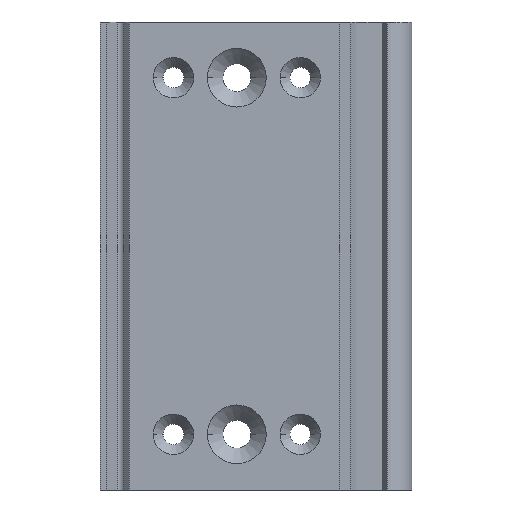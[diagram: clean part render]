
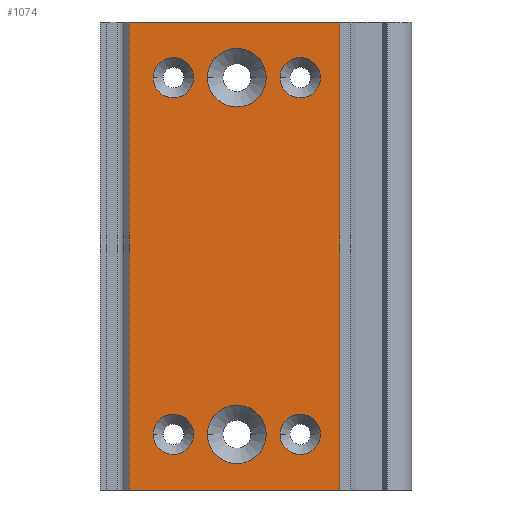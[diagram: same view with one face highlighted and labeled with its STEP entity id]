
A CAD part, left-side view. The second image highlights one B-rep face of the part: STEP entity #1074.
In plain terms, the highlighted planar face has unit normal (-1, 0, 0).
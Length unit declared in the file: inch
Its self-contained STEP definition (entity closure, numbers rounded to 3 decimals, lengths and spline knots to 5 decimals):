
#79=DIRECTION('',(0.,1.,0.));
#80=VECTOR('',#79,1.329);
#81=CARTESIAN_POINT('',(-0.1378,0.455,-1.47638));
#82=LINE('',#81,#80);
#185=DIRECTION('',(0.,0.,1.));
#186=VECTOR('',#185,2.95276);
#187=CARTESIAN_POINT('',(-0.1378,1.784,-1.47638));
#188=LINE('',#187,#186);
#189=DIRECTION('',(0.,0.,1.));
#190=VECTOR('',#189,2.95276);
#191=CARTESIAN_POINT('',(-0.1378,0.455,-1.47638));
#192=LINE('',#191,#190);
#193=CARTESIAN_POINT('',(-0.1378,0.705,1.125));
#194=DIRECTION('',(-1.,0.,0.));
#195=DIRECTION('',(0.,1.,0.));
#196=AXIS2_PLACEMENT_3D('',#193,#194,#195);
#198=CARTESIAN_POINT('',(-0.1378,0.705,1.125));
#199=DIRECTION('',(-1.,0.,0.));
#200=DIRECTION('',(0.,-1.,0.));
#201=AXIS2_PLACEMENT_3D('',#198,#199,#200);
#203=CARTESIAN_POINT('',(-0.1378,0.705,-1.125));
#204=DIRECTION('',(-1.,0.,0.));
#205=DIRECTION('',(0.,1.,0.));
#206=AXIS2_PLACEMENT_3D('',#203,#204,#205);
#208=CARTESIAN_POINT('',(-0.1378,0.705,-1.125));
#209=DIRECTION('',(-1.,0.,0.));
#210=DIRECTION('',(0.,-1.,0.));
#211=AXIS2_PLACEMENT_3D('',#208,#209,#210);
#213=CARTESIAN_POINT('',(-0.1378,1.505,1.125));
#214=DIRECTION('',(-1.,0.,0.));
#215=DIRECTION('',(0.,1.,0.));
#216=AXIS2_PLACEMENT_3D('',#213,#214,#215);
#218=CARTESIAN_POINT('',(-0.1378,1.505,1.125));
#219=DIRECTION('',(-1.,0.,0.));
#220=DIRECTION('',(0.,-1.,0.));
#221=AXIS2_PLACEMENT_3D('',#218,#219,#220);
#223=CARTESIAN_POINT('',(-0.1378,1.505,-1.125));
#224=DIRECTION('',(-1.,0.,0.));
#225=DIRECTION('',(0.,1.,0.));
#226=AXIS2_PLACEMENT_3D('',#223,#224,#225);
#228=CARTESIAN_POINT('',(-0.1378,1.505,-1.125));
#229=DIRECTION('',(-1.,0.,0.));
#230=DIRECTION('',(0.,-1.,0.));
#231=AXIS2_PLACEMENT_3D('',#228,#229,#230);
#233=CARTESIAN_POINT('',(-0.1378,1.105,1.125));
#234=DIRECTION('',(-1.,0.,0.));
#235=DIRECTION('',(0.,1.,0.));
#236=AXIS2_PLACEMENT_3D('',#233,#234,#235);
#238=CARTESIAN_POINT('',(-0.1378,1.105,1.125));
#239=DIRECTION('',(-1.,0.,0.));
#240=DIRECTION('',(0.,-1.,0.));
#241=AXIS2_PLACEMENT_3D('',#238,#239,#240);
#243=CARTESIAN_POINT('',(-0.1378,1.105,-1.125));
#244=DIRECTION('',(-1.,0.,0.));
#245=DIRECTION('',(0.,1.,0.));
#246=AXIS2_PLACEMENT_3D('',#243,#244,#245);
#248=CARTESIAN_POINT('',(-0.1378,1.105,-1.125));
#249=DIRECTION('',(-1.,0.,0.));
#250=DIRECTION('',(0.,-1.,0.));
#251=AXIS2_PLACEMENT_3D('',#248,#249,#250);
#395=DIRECTION('',(0.,1.,0.));
#396=VECTOR('',#395,1.329);
#397=CARTESIAN_POINT('',(-0.1378,0.455,1.47638));
#398=LINE('',#397,#396);
#654=CARTESIAN_POINT('',(-0.1378,0.455,-1.47638));
#655=VERTEX_POINT('',#654);
#666=CARTESIAN_POINT('',(-0.1378,0.455,1.47638));
#667=VERTEX_POINT('',#666);
#672=CARTESIAN_POINT('',(-0.1378,1.784,-1.47638));
#674=VERTEX_POINT('',#672);
#680=CARTESIAN_POINT('',(-0.1378,1.784,1.47638));
#682=VERTEX_POINT('',#680);
#720=CARTESIAN_POINT('',(-0.1378,0.8325,1.125));
#721=CARTESIAN_POINT('',(-0.1378,0.5775,1.125));
#722=VERTEX_POINT('',#720);
#723=VERTEX_POINT('',#721);
#732=CARTESIAN_POINT('',(-0.1378,0.8325,-1.125));
#733=CARTESIAN_POINT('',(-0.1378,0.5775,-1.125));
#734=VERTEX_POINT('',#732);
#735=VERTEX_POINT('',#733);
#740=CARTESIAN_POINT('',(-0.1378,1.6325,1.125));
#741=CARTESIAN_POINT('',(-0.1378,1.3775,1.125));
#742=VERTEX_POINT('',#740);
#743=VERTEX_POINT('',#741);
#748=CARTESIAN_POINT('',(-0.1378,1.6325,-1.125));
#749=CARTESIAN_POINT('',(-0.1378,1.3775,-1.125));
#750=VERTEX_POINT('',#748);
#751=VERTEX_POINT('',#749);
#784=CARTESIAN_POINT('',(-0.1378,1.29,1.125));
#785=CARTESIAN_POINT('',(-0.1378,0.92,1.125));
#786=VERTEX_POINT('',#784);
#787=VERTEX_POINT('',#785);
#800=CARTESIAN_POINT('',(-0.1378,1.29,-1.125));
#801=CARTESIAN_POINT('',(-0.1378,0.92,-1.125));
#802=VERTEX_POINT('',#800);
#803=VERTEX_POINT('',#801);
#1025=CARTESIAN_POINT('',(-0.1378,0.455,1.47638));
#1026=DIRECTION('',(1.,0.,0.));
#1027=DIRECTION('',(0.,1.,0.));
#1028=AXIS2_PLACEMENT_3D('',#1025,#1026,#1027);
#1029=PLANE('',#1028);
#1031=ORIENTED_EDGE('',*,*,#1030,.T.);
#1033=ORIENTED_EDGE('',*,*,#1032,.F.);
#1034=ORIENTED_EDGE('',*,*,#1017,.F.);
#1035=ORIENTED_EDGE('',*,*,#829,.T.);
#1036=EDGE_LOOP('',(#1031,#1033,#1034,#1035));
#1037=FACE_OUTER_BOUND('',#1036,.F.);
#1039=ORIENTED_EDGE('',*,*,#1038,.T.);
#1041=ORIENTED_EDGE('',*,*,#1040,.T.);
#1042=EDGE_LOOP('',(#1039,#1041));
#1043=FACE_BOUND('',#1042,.F.);
#1045=ORIENTED_EDGE('',*,*,#1044,.T.);
#1047=ORIENTED_EDGE('',*,*,#1046,.T.);
#1048=EDGE_LOOP('',(#1045,#1047));
#1049=FACE_BOUND('',#1048,.F.);
#1051=ORIENTED_EDGE('',*,*,#1050,.T.);
#1053=ORIENTED_EDGE('',*,*,#1052,.T.);
#1054=EDGE_LOOP('',(#1051,#1053));
#1055=FACE_BOUND('',#1054,.F.);
#1057=ORIENTED_EDGE('',*,*,#1056,.T.);
#1059=ORIENTED_EDGE('',*,*,#1058,.T.);
#1060=EDGE_LOOP('',(#1057,#1059));
#1061=FACE_BOUND('',#1060,.F.);
#1063=ORIENTED_EDGE('',*,*,#1062,.T.);
#1065=ORIENTED_EDGE('',*,*,#1064,.T.);
#1066=EDGE_LOOP('',(#1063,#1065));
#1067=FACE_BOUND('',#1066,.F.);
#1069=ORIENTED_EDGE('',*,*,#1068,.T.);
#1071=ORIENTED_EDGE('',*,*,#1070,.T.);
#1072=EDGE_LOOP('',(#1069,#1071));
#1073=FACE_BOUND('',#1072,.F.);
#1074=ADVANCED_FACE('',(#1037,#1043,#1049,#1055,#1061,#1067,#1073),#1029,.F.);
#197=CIRCLE('',#196,0.1275);
#202=CIRCLE('',#201,0.1275);
#207=CIRCLE('',#206,0.1275);
#212=CIRCLE('',#211,0.1275);
#217=CIRCLE('',#216,0.1275);
#222=CIRCLE('',#221,0.1275);
#227=CIRCLE('',#226,0.1275);
#232=CIRCLE('',#231,0.1275);
#237=CIRCLE('',#236,0.185);
#242=CIRCLE('',#241,0.185);
#247=CIRCLE('',#246,0.185);
#252=CIRCLE('',#251,0.185);
#829=EDGE_CURVE('',#655,#674,#82,.T.);
#1017=EDGE_CURVE('',#655,#667,#192,.T.);
#1030=EDGE_CURVE('',#674,#682,#188,.T.);
#1032=EDGE_CURVE('',#667,#682,#398,.T.);
#1038=EDGE_CURVE('',#722,#723,#197,.T.);
#1040=EDGE_CURVE('',#723,#722,#202,.T.);
#1044=EDGE_CURVE('',#734,#735,#207,.T.);
#1046=EDGE_CURVE('',#735,#734,#212,.T.);
#1050=EDGE_CURVE('',#742,#743,#217,.T.);
#1052=EDGE_CURVE('',#743,#742,#222,.T.);
#1056=EDGE_CURVE('',#750,#751,#227,.T.);
#1058=EDGE_CURVE('',#751,#750,#232,.T.);
#1062=EDGE_CURVE('',#786,#787,#237,.T.);
#1064=EDGE_CURVE('',#787,#786,#242,.T.);
#1068=EDGE_CURVE('',#802,#803,#247,.T.);
#1070=EDGE_CURVE('',#803,#802,#252,.T.);
